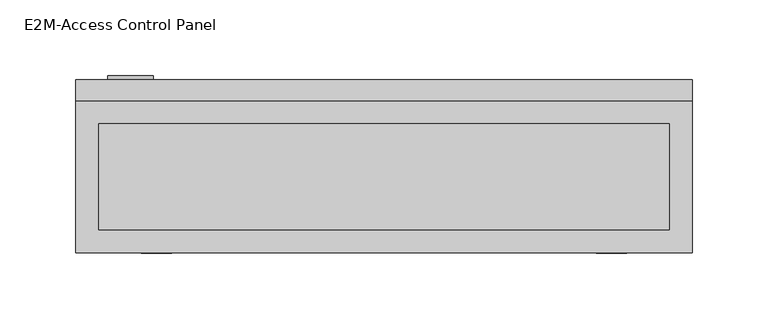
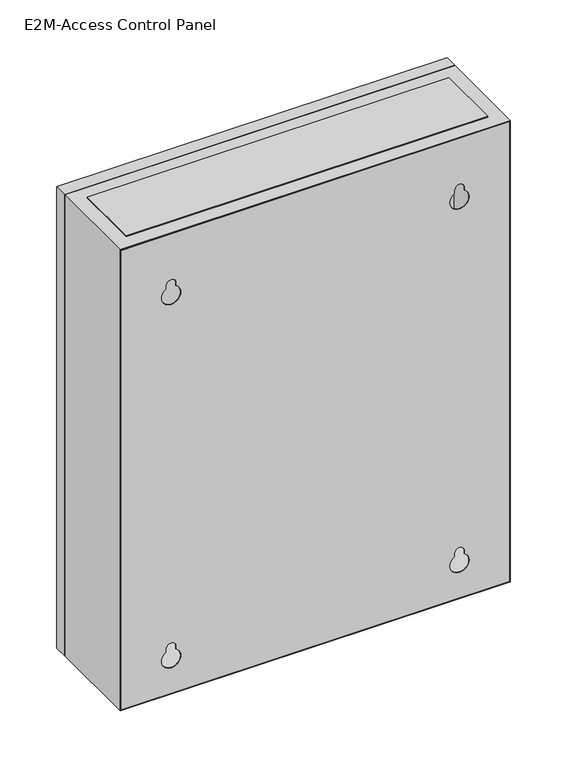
"""IFC4 building model written with IfcOpenShell, lengths in millimetres: proxy geometry, E2M_CF4_Access_Control_Panel_Wallmount_with_3inch_Strut_BIM_Model : E2M-Access Control Panel."""

from ifc_helpers import new_model, si_unit, point, frame, frame_2d, origin, place, context, project, spatial, polyline, circle_curve, trimmed, segment, composite_curve, outline, extrude, source, transform, mapped, element, save


def e2m_access_control_panel_cf59e728(model_context):
    return source(origin(), model_context, "Body", "SweptSolid", [
        extrude(outline(polyline([(188.0, 371.2), (188.0, 301.2), (-188.0, 301.2), (-188.0, 371.2), (188.0, 371.2)])), frame((0.0, 0.0, 1090.267542), z_axis=(0.0, 0.0, 1.0), x_axis=(1.0, 0.0, 0.0)), (0.0, 0.0, 1.0), 1.0),
        extrude(outline(polyline([(188.0, 371.2), (188.0, 301.2), (-188.0, 301.2), (-188.0, 371.2), (188.0, 371.2)])), frame((0.0, 0.0, 1599.1733261), z_axis=(0.0, 0.0, 1.0), x_axis=(1.0, 0.0, 0.0)), (0.0, 0.0, 1.0), 1.0),
        extrude(outline(composite_curve([segment(trimmed(circle_curve(frame_2d((1432.2477718, -167.0)), 15.0), [point((1432.2477718, -182.0))], [point((1432.2477718, -152.0))], False, "CARTESIAN"), True, "CONTINUOUS"), segment(trimmed(circle_curve(frame_2d((1432.2477718, -167.0)), 15.0), [point((1432.2477718, -152.0))], [point((1432.2477718, -182.0))], False, "CARTESIAN"), True, "CONTINUOUS")], self_intersect=False), holes=[composite_curve([segment(trimmed(circle_curve(frame_2d((1432.2477718, -167.0)), 10.0), [point((1432.2477718, -177.0))], [point((1432.2477718, -157.0))], True, "CARTESIAN"), True, "CONTINUOUS"), segment(trimmed(circle_curve(frame_2d((1432.2477718, -167.0)), 10.0), [point((1432.2477718, -157.0))], [point((1432.2477718, -177.0))], True, "CARTESIAN"), True, "CONTINUOUS")], self_intersect=False)]), frame((0.0, 400.2, 0.0), z_axis=(0.0, 1.0, 0.0), x_axis=(0.0, 0.0, 1.0)), (0.0, 0.0, 1.0), 2.4582379),
        extrude(outline(composite_curve([segment(trimmed(circle_curve(frame_2d((1432.2477718, -167.0)), 5.0), [point((1432.2477718, -172.0))], [point((1432.2477718, -162.0))], False, "CARTESIAN"), True, "CONTINUOUS"), segment(trimmed(circle_curve(frame_2d((1432.2477718, -167.0)), 5.0), [point((1432.2477718, -162.0))], [point((1432.2477718, -172.0))], False, "CARTESIAN"), True, "CONTINUOUS")], self_intersect=False)), frame((0.0, 400.2, 0.0), z_axis=(0.0, 1.0, 0.0), x_axis=(0.0, 0.0, 1.0)), (0.0, 0.0, 1.0), 2.4582379),
        extrude(outline(polyline([(1598.1733261, -202.0), (1092.1733261, -202.0), (1092.1733261, 202.0), (1598.1733261, 202.0), (1598.1733261, -202.0)]), holes=[composite_curve([segment(trimmed(circle_curve(frame_2d((1542.628956, -150.0)), 5.0), [point((1542.628956, -155.0))], [point((1542.628956, -145.0))], True, "CARTESIAN"), True, "CONTINUOUS"), segment(polyline([(1542.628956, -145.0), (1539.3330615, -145.0)]), True, "CONTINUOUS"), segment(trimmed(circle_curve(frame_2d((1530.6728075, -150.0)), 10.0), [point((1539.3330615, -145.0))], [point((1539.3330615, -155.0))], True, "CARTESIAN"), True, "CONTINUOUS"), segment(polyline([(1539.3330615, -155.0), (1542.628956, -155.0)]), True, "CONTINUOUS")], self_intersect=False), composite_curve([segment(trimmed(circle_curve(frame_2d((1542.628956, 150.0)), 5.0), [point((1542.628956, 145.0))], [point((1542.628956, 155.0))], True, "CARTESIAN"), True, "CONTINUOUS"), segment(polyline([(1542.628956, 155.0), (1539.3330615, 155.0)]), True, "CONTINUOUS"), segment(trimmed(circle_curve(frame_2d((1530.6728075, 150.0)), 10.0), [point((1539.3330615, 155.0))], [point((1539.3330615, 145.0))], True, "CARTESIAN"), True, "CONTINUOUS"), segment(polyline([(1539.3330615, 145.0), (1542.628956, 145.0)]), True, "CONTINUOUS")], self_intersect=False), composite_curve([segment(trimmed(circle_curve(frame_2d((1142.628956, -150.0)), 5.0), [point((1142.628956, -155.0))], [point((1142.628956, -145.0))], True, "CARTESIAN"), True, "CONTINUOUS"), segment(polyline([(1142.628956, -145.0), (1139.3330615, -145.0)]), True, "CONTINUOUS"), segment(trimmed(circle_curve(frame_2d((1130.6728075, -150.0)), 10.0), [point((1139.3330615, -145.0))], [point((1139.3330615, -155.0))], True, "CARTESIAN"), True, "CONTINUOUS"), segment(polyline([(1139.3330615, -155.0), (1142.628956, -155.0)]), True, "CONTINUOUS")], self_intersect=False), composite_curve([segment(trimmed(circle_curve(frame_2d((1142.628956, 150.0)), 5.0), [point((1142.628956, 145.0))], [point((1142.628956, 155.0))], True, "CARTESIAN"), True, "CONTINUOUS"), segment(polyline([(1142.628956, 155.0), (1139.3330615, 155.0)]), True, "CONTINUOUS"), segment(trimmed(circle_curve(frame_2d((1130.6728075, 150.0)), 10.0), [point((1139.3330615, 155.0))], [point((1139.3330615, 145.0))], True, "CARTESIAN"), True, "CONTINUOUS"), segment(polyline([(1139.3330615, 145.0), (1142.628956, 145.0)]), True, "CONTINUOUS")], self_intersect=False)]), frame((0.0, 286.0, 0.0), z_axis=(0.0, 1.0, 0.0), x_axis=(0.0, 0.0, 1.0)), (0.0, 0.0, 1.0), 0.2),
        extrude(outline(polyline([(203.0, 386.2), (-203.0, 386.2), (-203.0, 400.2), (203.0, 400.2), (203.0, 386.2)])), frame((0.0, 0.0, 1091.1733261), z_axis=(0.0, 0.0, 1.0), x_axis=(1.0, 0.0, 0.0)), (0.0, 0.0, 1.0), 508.0),
        extrude(outline(polyline([(1599.1733261, -203.0), (1091.267542, -203.0), (1091.267542, 203.0), (1599.1733261, 203.0), (1599.1733261, -203.0)]), holes=[polyline([(1598.1733261, -202.0), (1598.1733261, 202.0), (1092.267542, 202.0), (1092.267542, -202.0), (1598.1733261, -202.0)])]), frame((0.0, 286.2, 0.0), z_axis=(0.0, 1.0, 0.0), x_axis=(0.0, 0.0, 1.0)), (0.0, 0.0, 1.0), 100.0),
    ])


if __name__ == "__main__":
    model = new_model("IFC4")
    model_context = context("Model", 3, world=origin())
    ifc_project = project(units=[si_unit("LENGTHUNIT", "METRE", prefix="MILLI")], contexts=[model_context])
    site = spatial("IfcSite", under=ifc_project)
    building = spatial("IfcBuilding", under=site)
    placement = place(None, origin())
    e2m_access_control_panel_shape = e2m_access_control_panel_cf59e728(model_context)
    element("IfcBuildingElementProxy", 1, Name="E2M_CF4_Access_Control_Panel_Wallmount_with_3inch_Strut_BIM_Model : E2M-Access Control Panel", ObjectType="E2M_CF4_Access_Control_Panel_Wallmount_with_3inch_Strut_BIM_Model : E2M-Access Control Panel", at=placement, inside=building, context=model_context, shape_type="MappedRepresentation", body=[
        mapped(e2m_access_control_panel_shape, transform((0.0, 0.0, 0.0), x_axis=(1.0, 0.0, 0.0), y_axis=(0.0, 1.0, 0.0), z_axis=(0.0, 0.0, 1.0))),
    ])
    save(model, "model.ifc")
